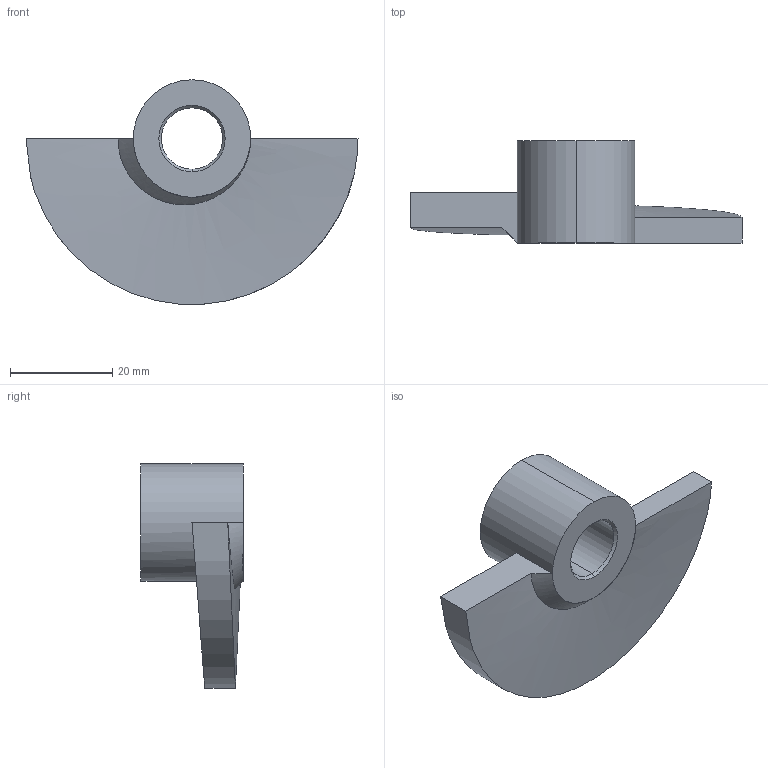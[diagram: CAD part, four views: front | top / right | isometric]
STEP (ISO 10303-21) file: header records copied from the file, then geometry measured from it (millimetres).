
FILE_DESCRIPTION (( 'STEP AP203' ), '1' );
FILE_NAME ('Wiberger-gn218_r_65x12.step', '2014-08-05T06:37:41', ( 'Magnus' ), ( 'Microsoft' ), 'SwSTEP 2.0', 'SolidWorks 2014', '' );
FILE_SCHEMA (( 'CONFIG_CONTROL_DESIGN' ));
Length unit declared in the file: millimetre
Products named in the file (1): Wiberger-gn218_r_65x12
Bounding box: 65 x 20 x 43.93 mm (x, y, z)
Volume: 14799.7 mm3; surface area: 6314.8 mm2
Topology: 1 solids, 1 shells, 24 faces, 51 edges, 28 vertices
Faces by surface type: cylinder 10, bspline 6, cone 4, plane 4
Entity records: 1382 total; most frequent: CARTESIAN_POINT 826, ORIENTED_EDGE 100, DIRECTION 92, EDGE_CURVE 50, AXIS2_PLACEMENT_3D 37, VERTEX_POINT 28, EDGE_LOOP 26, ADVANCED_FACE 24
